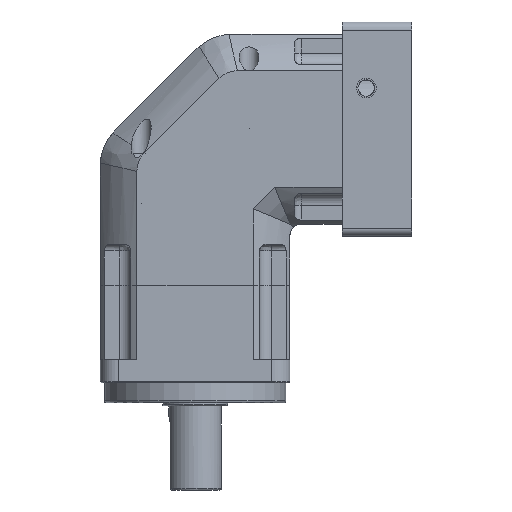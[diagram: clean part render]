
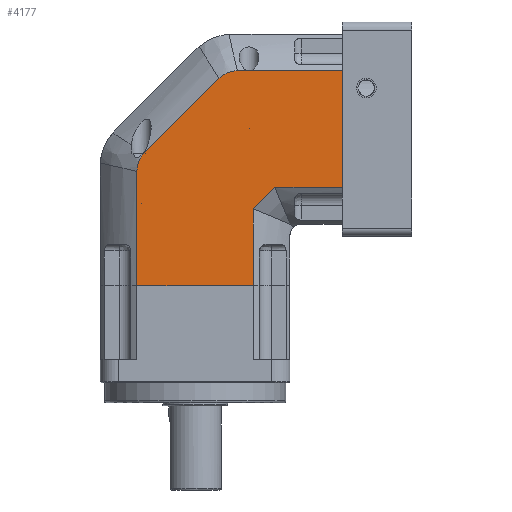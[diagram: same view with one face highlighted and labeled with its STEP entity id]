
A CAD part, left-side view. The second image highlights one B-rep face of the part: STEP entity #4177.
In plain terms, the highlighted planar face has unit normal (-1, 0, 0) as drawn and (1, 0, 0) by its records, which use the part's own axes.
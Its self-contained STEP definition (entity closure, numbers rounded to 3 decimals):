
#3405=CARTESIAN_POINT('',(57.5,35.355,83.047));
#3406=VERTEX_POINT('',#3405);
#3417=CARTESIAN_POINT('',(57.5,30.753,71.936));
#3418=VERTEX_POINT('',#3417);
#3419=CARTESIAN_POINT('',(57.5,35.355,83.047));
#3420=CARTESIAN_POINT('',(57.5,35.355,80.974));
#3421=CARTESIAN_POINT('',(57.5,34.972,78.942));
#3422=CARTESIAN_POINT('',(57.5,33.387,75.113));
#3423=CARTESIAN_POINT('',(57.5,32.22,73.403));
#3424=CARTESIAN_POINT('',(57.5,30.753,71.936));
#3425=B_SPLINE_CURVE_WITH_KNOTS('',3,(#3419,#3420,#3421,#3422,#3423,#3424),.UNSPECIFIED.,.F.,.U.,(4,2,4),(0.0,0.622,1.245),.UNSPECIFIED.);
#3426=EDGE_CURVE('',#3406,#3418,#3425,.T.);
#3672=CARTESIAN_POINT('',(57.5,-35.355,152.3));
#3673=VERTEX_POINT('',#3672);
#3683=CARTESIAN_POINT('',(57.5,35.355,152.3));
#3684=VERTEX_POINT('',#3683);
#3685=CARTESIAN_POINT('',(57.5,35.355,152.3));
#3686=DIRECTION('',(0.0,-1.0,0.0));
#3687=VECTOR('',#3686,70.711);
#3688=LINE('',#3685,#3687);
#3689=EDGE_CURVE('',#3684,#3673,#3688,.T.);
#4098=CARTESIAN_POINT('',(57.5,35.355,83.047));
#4099=DIRECTION('',(0.0,0.0,1.0));
#4100=VECTOR('',#4099,69.253);
#4101=LINE('',#4098,#4100);
#4102=EDGE_CURVE('',#3406,#3684,#4101,.T.);
#4110=CARTESIAN_POINT('',(57.5,35.355,0.0));
#4111=DIRECTION('',(1.0,0.0,0.0));
#4112=DIRECTION('',(0.0,0.0,-1.0));
#4113=AXIS2_PLACEMENT_3D('',#4110,#4111,#4112);
#4114=PLANE('',#4113);
#4115=ORIENTED_EDGE('',*,*,#3689,.T.);
#4116=CARTESIAN_POINT('',(57.5,-35.355,105.827));
#4117=VERTEX_POINT('',#4116);
#4118=CARTESIAN_POINT('',(57.5,-35.355,105.827));
#4119=DIRECTION('',(0.0,0.0,1.0));
#4120=VECTOR('',#4119,46.473);
#4121=LINE('',#4118,#4120);
#4122=EDGE_CURVE('',#4117,#3673,#4121,.T.);
#4123=ORIENTED_EDGE('',*,*,#4122,.F.);
#4124=CARTESIAN_POINT('',(57.5,-48.327,92.855));
#4125=VERTEX_POINT('',#4124);
#4126=CARTESIAN_POINT('',(57.5,-48.327,92.855));
#4127=DIRECTION('',(0.0,0.707,0.707));
#4128=VECTOR('',#4127,18.345);
#4129=LINE('',#4126,#4128);
#4130=EDGE_CURVE('',#4125,#4117,#4129,.T.);
#4131=ORIENTED_EDGE('',*,*,#4130,.F.);
#4132=CARTESIAN_POINT('',(57.5,-89.3,92.855));
#4133=VERTEX_POINT('',#4132);
#4134=CARTESIAN_POINT('',(57.5,-48.327,92.855));
#4135=DIRECTION('',(0.0,-1.0,0.0));
#4136=VECTOR('',#4135,40.973);
#4137=LINE('',#4134,#4136);
#4138=EDGE_CURVE('',#4125,#4133,#4137,.T.);
#4139=ORIENTED_EDGE('',*,*,#4138,.T.);
#4140=CARTESIAN_POINT('',(57.5,-89.3,22.145));
#4141=VERTEX_POINT('',#4140);
#4142=CARTESIAN_POINT('',(57.5,-89.3,92.855));
#4143=DIRECTION('',(0.0,0.0,-1.0));
#4144=VECTOR('',#4143,70.711);
#4145=LINE('',#4142,#4144);
#4146=EDGE_CURVE('',#4133,#4141,#4145,.T.);
#4147=ORIENTED_EDGE('',*,*,#4146,.T.);
#4148=CARTESIAN_POINT('',(57.5,-25.547,22.145));
#4149=VERTEX_POINT('',#4148);
#4150=CARTESIAN_POINT('',(57.5,-89.3,22.145));
#4151=DIRECTION('',(0.0,1.0,0.0));
#4152=VECTOR('',#4151,63.753);
#4153=LINE('',#4150,#4152);
#4154=EDGE_CURVE('',#4141,#4149,#4153,.T.);
#4155=ORIENTED_EDGE('',*,*,#4154,.T.);
#4156=CARTESIAN_POINT('',(57.5,-14.436,26.747));
#4157=VERTEX_POINT('',#4156);
#4158=CARTESIAN_POINT('',(57.5,-14.436,26.747));
#4159=CARTESIAN_POINT('',(57.5,-15.902,25.281));
#4160=CARTESIAN_POINT('',(57.5,-17.61,24.116));
#4161=CARTESIAN_POINT('',(57.5,-21.438,22.529));
#4162=CARTESIAN_POINT('',(57.5,-23.471,22.145));
#4163=CARTESIAN_POINT('',(57.5,-25.547,22.145));
#4164=B_SPLINE_CURVE_WITH_KNOTS('',3,(#4158,#4159,#4160,#4161,#4162,#4163),.UNSPECIFIED.,.F.,.U.,(4,2,4),(0.0,0.622,1.245),.UNSPECIFIED.);
#4165=EDGE_CURVE('',#4157,#4149,#4164,.T.);
#4166=ORIENTED_EDGE('',*,*,#4165,.F.);
#4167=CARTESIAN_POINT('',(57.5,-14.436,26.747));
#4168=DIRECTION('',(0.0,0.707,0.707));
#4169=VECTOR('',#4168,63.906);
#4170=LINE('',#4167,#4169);
#4171=EDGE_CURVE('',#4157,#3418,#4170,.T.);
#4172=ORIENTED_EDGE('',*,*,#4171,.T.);
#4173=ORIENTED_EDGE('',*,*,#3426,.F.);
#4174=ORIENTED_EDGE('',*,*,#4102,.T.);
#4175=EDGE_LOOP('',(#4115,#4123,#4131,#4139,#4147,#4155,#4166,#4172,#4173,#4174));
#4176=FACE_OUTER_BOUND('',#4175,.T.);
#4177=ADVANCED_FACE('',(#4176),#4114,.T.);
